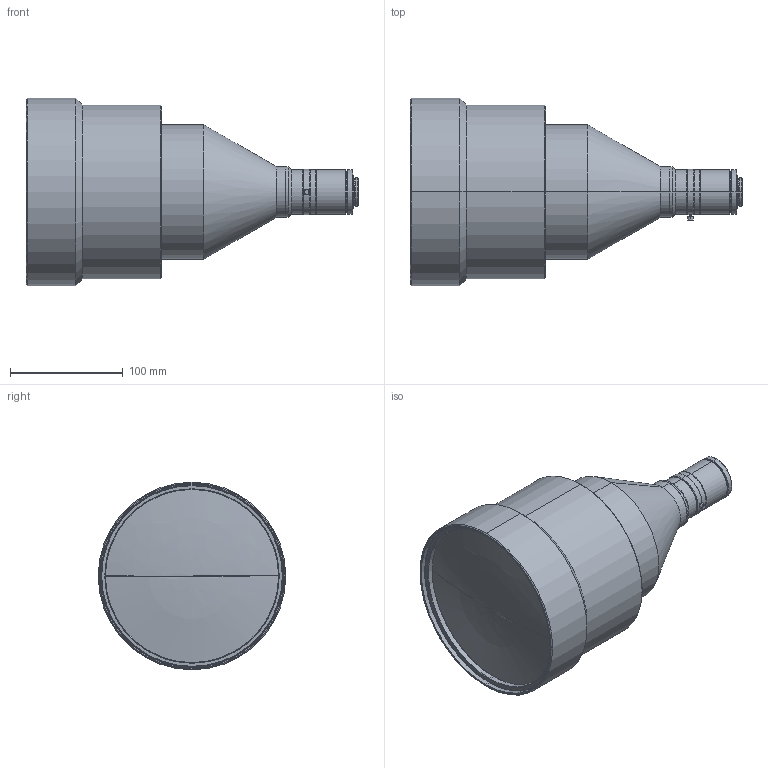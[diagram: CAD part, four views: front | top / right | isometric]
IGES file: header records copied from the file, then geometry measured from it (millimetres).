
Start section: SolidWorks IGES file using analytic representation for surfaces
Global section: file name: C:\Users\tsuji_vst\Documents\【図面】\_3D\00 VST\VS-THV\VS-THV011-220_S.IGS; native system: SolidWorks 2016; preprocessor: SolidWorks 2016; author: tsuji_vst; date: 160523.111714; units: millimetre
Bounding box: 293.97 x 166 x 166 mm (x, y, z)
Surface area: 141761.8 mm2 (no closed solid volume)
Topology: 0 solids, 0 shells, 160 faces, 2774 edges, 2764 vertices
Faces by surface type: revolution 140, bspline 20
